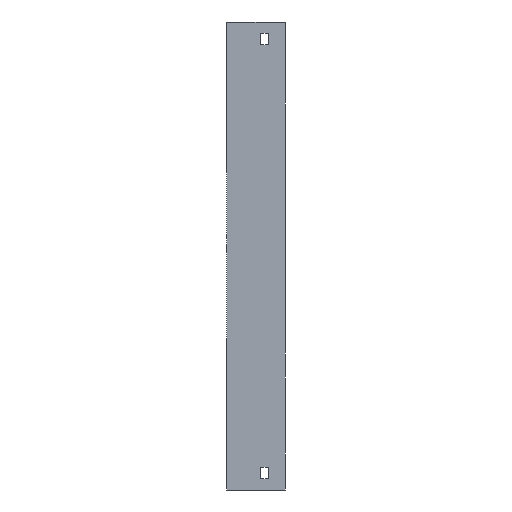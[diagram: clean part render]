
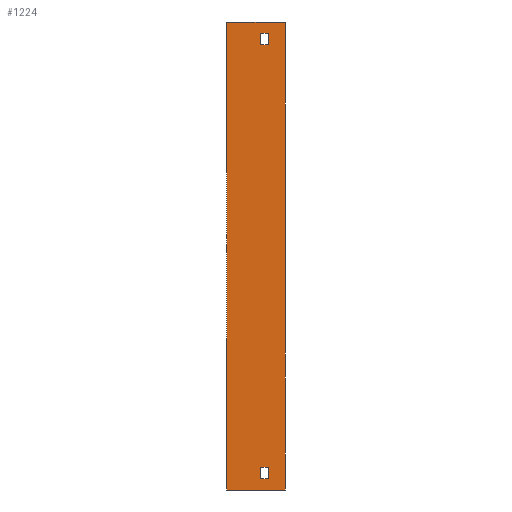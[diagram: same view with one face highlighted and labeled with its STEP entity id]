
A CAD part, left-side view. The second image highlights one B-rep face of the part: STEP entity #1224.
In plain terms, the highlighted planar face has unit normal (-1, 0, 0).
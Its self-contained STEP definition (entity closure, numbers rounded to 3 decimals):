
#2 = DIRECTION ( 'NONE',  ( 0., -1., 0. ) ) ;
#9 = ORIENTED_EDGE ( 'NONE', *, *, #265, .T. ) ;
#15 = VECTOR ( 'NONE', #776, 1000. ) ;
#47 = CARTESIAN_POINT ( 'NONE',  ( -254., 15., 10. ) ) ;
#78 = VECTOR ( 'NONE', #1898, 1000. ) ;
#90 = LINE ( 'NONE', #1144, #1032 ) ;
#159 = CARTESIAN_POINT ( 'NONE',  ( -254., 15., -364. ) ) ;
#162 = CARTESIAN_POINT ( 'NONE',  ( -254., 52., -384. ) ) ;
#174 = VECTOR ( 'NONE', #2, 1000. ) ;
#228 = CARTESIAN_POINT ( 'NONE',  ( -254., 22., 20. ) ) ;
#248 = LINE ( 'NONE', #1040, #1697 ) ;
#265 = EDGE_CURVE ( 'NONE', #1256, #1300, #248, .T. ) ;
#317 = EDGE_CURVE ( 'NONE', #1280, #1703, #90, .T. ) ;
#328 = CARTESIAN_POINT ( 'NONE',  ( -254., 52., -384. ) ) ;
#329 = VECTOR ( 'NONE', #1013, 1000. ) ;
#350 = VERTEX_POINT ( 'NONE', #47 ) ;
#364 = FACE_BOUND ( 'NONE', #1521, .T. ) ;
#387 = ORIENTED_EDGE ( 'NONE', *, *, #317, .F. ) ;
#402 = ORIENTED_EDGE ( 'NONE', *, *, #1250, .T. ) ;
#413 = CARTESIAN_POINT ( 'NONE',  ( -254., 22., 10. ) ) ;
#423 = ORIENTED_EDGE ( 'NONE', *, *, #1073, .F. ) ;
#452 = EDGE_CURVE ( 'NONE', #791, #1300, #1780, .T. ) ;
#457 = VECTOR ( 'NONE', #1329, 1000. ) ;
#460 = VECTOR ( 'NONE', #1371, 1000. ) ;
#478 = CARTESIAN_POINT ( 'NONE',  ( -254., 22., 10. ) ) ;
#481 = LINE ( 'NONE', #162, #15 ) ;
#487 = LINE ( 'NONE', #1657, #174 ) ;
#504 = LINE ( 'NONE', #228, #556 ) ;
#552 = VERTEX_POINT ( 'NONE', #1511 ) ;
#556 = VECTOR ( 'NONE', #1098, 1000. ) ;
#577 = EDGE_CURVE ( 'NONE', #673, #791, #481, .T. ) ;
#601 = LINE ( 'NONE', #1676, #460 ) ;
#613 = EDGE_CURVE ( 'NONE', #1495, #350, #601, .T. ) ;
#634 = FACE_BOUND ( 'NONE', #913, .T. ) ;
#673 = VERTEX_POINT ( 'NONE', #328 ) ;
#674 = EDGE_CURVE ( 'NONE', #713, #1495, #487, .T. ) ;
#686 = VECTOR ( 'NONE', #1794, 1000. ) ;
#702 = LINE ( 'NONE', #413, #329 ) ;
#707 = ORIENTED_EDGE ( 'NONE', *, *, #613, .T. ) ;
#713 = VERTEX_POINT ( 'NONE', #1091 ) ;
#729 = LINE ( 'NONE', #1920, #1882 ) ;
#754 = ORIENTED_EDGE ( 'NONE', *, *, #452, .F. ) ;
#776 = DIRECTION ( 'NONE',  ( 0., 0., 1. ) ) ;
#783 = ORIENTED_EDGE ( 'NONE', *, *, #1903, .T. ) ;
#791 = VERTEX_POINT ( 'NONE', #1468 ) ;
#873 = DIRECTION ( 'NONE',  ( 0., 0., 1. ) ) ;
#913 = EDGE_LOOP ( 'NONE', ( #1156, #387, #423, #1669 ) ) ;
#993 = EDGE_CURVE ( 'NONE', #1703, #552, #1012, .T. ) ;
#1003 = CARTESIAN_POINT ( 'NONE',  ( -254., 15., 20. ) ) ;
#1012 = LINE ( 'NONE', #1759, #78 ) ;
#1013 = DIRECTION ( 'NONE',  ( 0., 1., 0. ) ) ;
#1016 = EDGE_LOOP ( 'NONE', ( #9, #754, #1753, #1361 ) ) ;
#1032 = VECTOR ( 'NONE', #1712, 1000. ) ;
#1040 = CARTESIAN_POINT ( 'NONE',  ( -254., 0., -384. ) ) ;
#1073 = EDGE_CURVE ( 'NONE', #1357, #1280, #1508, .T. ) ;
#1086 = CARTESIAN_POINT ( 'NONE',  ( -254., 52., -384. ) ) ;
#1091 = CARTESIAN_POINT ( 'NONE',  ( -254., 22., 20. ) ) ;
#1098 = DIRECTION ( 'NONE',  ( 0., 0., 1. ) ) ;
#1110 = DIRECTION ( 'NONE',  ( 0., 0., -1. ) ) ;
#1144 = CARTESIAN_POINT ( 'NONE',  ( -254., 22., -374. ) ) ;
#1156 = ORIENTED_EDGE ( 'NONE', *, *, #993, .F. ) ;
#1178 = LINE ( 'NONE', #1643, #1287 ) ;
#1183 = CARTESIAN_POINT ( 'NONE',  ( -254., 22., -374. ) ) ;
#1224 = ADVANCED_FACE ( 'NONE', ( #1891, #364, #634 ), #1414, .F. ) ;
#1235 = AXIS2_PLACEMENT_3D ( 'NONE', #1086, #1249, #1110 ) ;
#1249 = DIRECTION ( 'NONE',  ( 1., 0., 0. ) ) ;
#1250 = EDGE_CURVE ( 'NONE', #1291, #713, #504, .T. ) ;
#1256 = VERTEX_POINT ( 'NONE', #1593 ) ;
#1280 = VERTEX_POINT ( 'NONE', #1581 ) ;
#1287 = VECTOR ( 'NONE', #1402, 1000. ) ;
#1291 = VERTEX_POINT ( 'NONE', #478 ) ;
#1300 = VERTEX_POINT ( 'NONE', #1358 ) ;
#1329 = DIRECTION ( 'NONE',  ( 0., 1., 0. ) ) ;
#1351 = CARTESIAN_POINT ( 'NONE',  ( -254., 22., -364. ) ) ;
#1357 = VERTEX_POINT ( 'NONE', #159 ) ;
#1358 = CARTESIAN_POINT ( 'NONE',  ( -254., 0., 30. ) ) ;
#1361 = ORIENTED_EDGE ( 'NONE', *, *, #1368, .T. ) ;
#1367 = EDGE_CURVE ( 'NONE', #552, #1357, #729, .T. ) ;
#1368 = EDGE_CURVE ( 'NONE', #673, #1256, #1178, .T. ) ;
#1371 = DIRECTION ( 'NONE',  ( 0., 0., -1. ) ) ;
#1402 = DIRECTION ( 'NONE',  ( 0., -1., 0. ) ) ;
#1414 = PLANE ( 'NONE',  #1235 ) ;
#1468 = CARTESIAN_POINT ( 'NONE',  ( -254., 52., 30. ) ) ;
#1477 = CARTESIAN_POINT ( 'NONE',  ( -254., 52., 30. ) ) ;
#1488 = DIRECTION ( 'NONE',  ( 0., 0., 1. ) ) ;
#1495 = VERTEX_POINT ( 'NONE', #1003 ) ;
#1508 = LINE ( 'NONE', #1351, #457 ) ;
#1511 = CARTESIAN_POINT ( 'NONE',  ( -254., 15., -374. ) ) ;
#1521 = EDGE_LOOP ( 'NONE', ( #402, #1926, #707, #783 ) ) ;
#1581 = CARTESIAN_POINT ( 'NONE',  ( -254., 22., -364. ) ) ;
#1593 = CARTESIAN_POINT ( 'NONE',  ( -254., 0., -384. ) ) ;
#1643 = CARTESIAN_POINT ( 'NONE',  ( -254., 52., -384. ) ) ;
#1657 = CARTESIAN_POINT ( 'NONE',  ( -254., 22., 20. ) ) ;
#1669 = ORIENTED_EDGE ( 'NONE', *, *, #1367, .F. ) ;
#1676 = CARTESIAN_POINT ( 'NONE',  ( -254., 15., 20. ) ) ;
#1697 = VECTOR ( 'NONE', #1488, 1000. ) ;
#1703 = VERTEX_POINT ( 'NONE', #1183 ) ;
#1712 = DIRECTION ( 'NONE',  ( 0., 0., -1. ) ) ;
#1753 = ORIENTED_EDGE ( 'NONE', *, *, #577, .F. ) ;
#1759 = CARTESIAN_POINT ( 'NONE',  ( -254., 22., -374. ) ) ;
#1780 = LINE ( 'NONE', #1477, #686 ) ;
#1794 = DIRECTION ( 'NONE',  ( 0., -1., 0. ) ) ;
#1882 = VECTOR ( 'NONE', #873, 1000. ) ;
#1891 = FACE_OUTER_BOUND ( 'NONE', #1016, .T. ) ;
#1898 = DIRECTION ( 'NONE',  ( 0., -1., 0. ) ) ;
#1903 = EDGE_CURVE ( 'NONE', #350, #1291, #702, .T. ) ;
#1920 = CARTESIAN_POINT ( 'NONE',  ( -254., 15., -374. ) ) ;
#1926 = ORIENTED_EDGE ( 'NONE', *, *, #674, .T. ) ;
